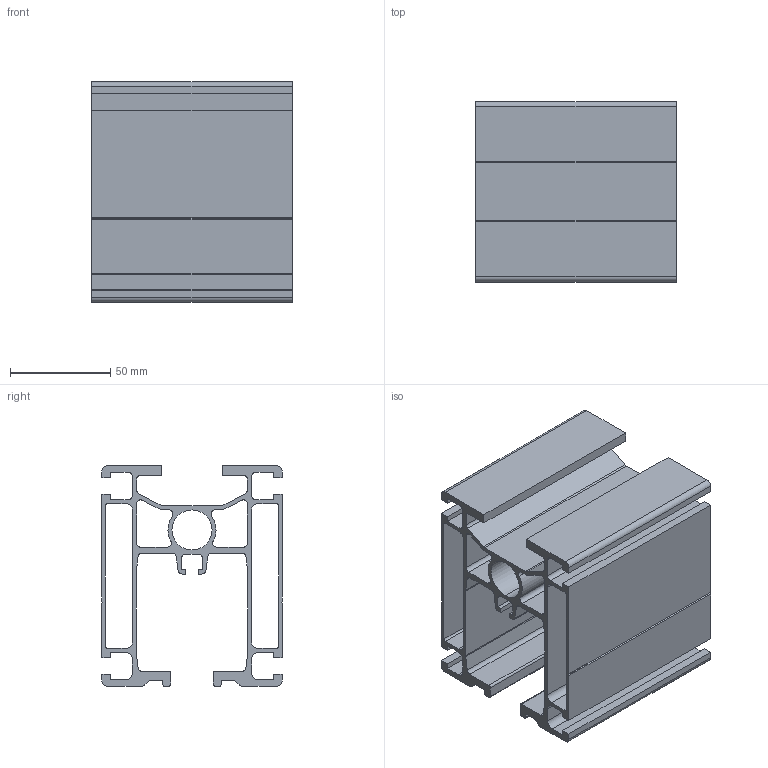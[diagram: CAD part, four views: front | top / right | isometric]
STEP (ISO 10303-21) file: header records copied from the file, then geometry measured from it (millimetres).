
FILE_DESCRIPTION (( 'STEP AP214' ), '1' );
FILE_NAME ('900.110.090.STEP', '2020-07-23T09:03:28', ( '' ), ( '' ), 'SwSTEP 2.0', 'SolidWorks 2018', '' );
FILE_SCHEMA (( 'AUTOMOTIVE_DESIGN' ));
Length unit declared in the file: millimetre
Products named in the file (1): 900.110.090
Bounding box: 100 x 90 x 110 mm (x, y, z)
Volume: 190663.6 mm3; surface area: 146330.1 mm2
Topology: 1 solids, 1 shells, 170 faces, 504 edges, 336 vertices
Faces by surface type: plane 102, cylinder 68
Entity records: 5758 total; most frequent: CARTESIAN_POINT 1011, ORIENTED_EDGE 1008, DIRECTION 982, EDGE_CURVE 504, LINE 368, VECTOR 368, VERTEX_POINT 336, AXIS2_PLACEMENT_3D 307
